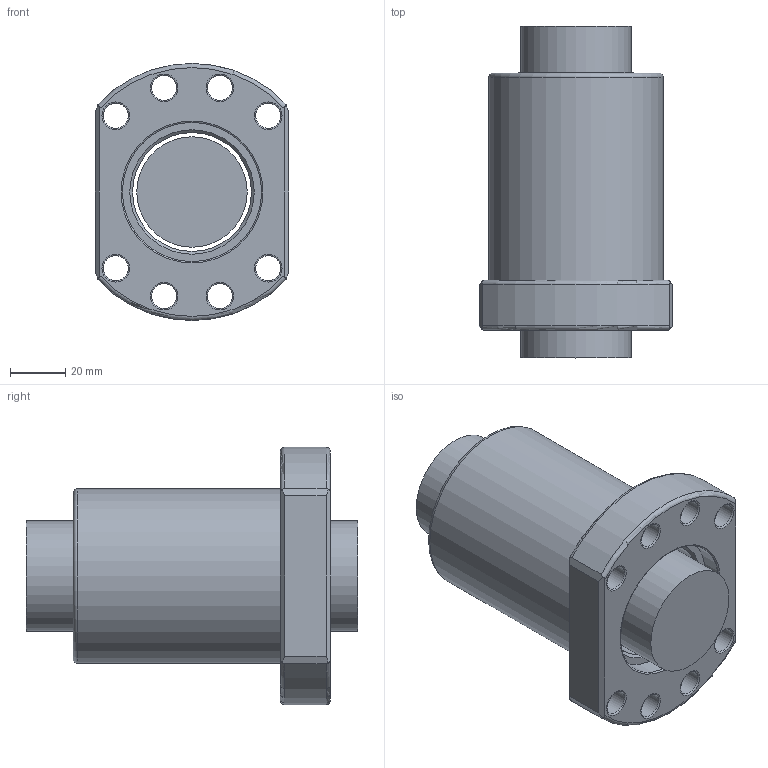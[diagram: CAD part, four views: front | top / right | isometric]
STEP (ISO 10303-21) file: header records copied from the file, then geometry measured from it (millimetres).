
FILE_DESCRIPTION(/* description */ (''),/* implementation_level */ '2;1');
FILE_NAME(/* name */ '4010.prt.step',/* time_stamp */ '2008-12-05T16:32:24+08:00',/* author */ (''),/* organization */ (''),/* preprocessor_version */ 'ST-DEVELOPER v11',/* originating_system */ 'SIEMENS UGS NX 6.0',/* authorisation */ '');
FILE_SCHEMA (('AUTOMOTIVE_DESIGN { 1 0 10303 214 1 1 1 1 }'));
Length unit declared in the file: millimetre
Products named in the file (1): 4010
Bounding box: 70 x 120 x 93 mm (x, y, z)
Volume: 336339.7 mm3; surface area: 61286.6 mm2
Topology: 2 solids, 2 shells, 57 faces, 132 edges, 82 vertices
Faces by surface type: torus 23, plane 17, cylinder 15, cone 2
Full cylindrical faces by diameter (mm): 9 x8, 39.95 x1, 43 x1, 50.3 x2, 63 x1
Entity records: 1694 total; most frequent: CARTESIAN_POINT 472, DIRECTION 250, ORIENTED_EDGE 190, AXIS2_PLACEMENT_3D 113, EDGE_LOOP 112, EDGE_CURVE 95, FACE_BOUND 94, VERTEX_POINT 79
